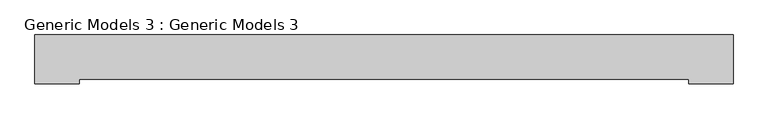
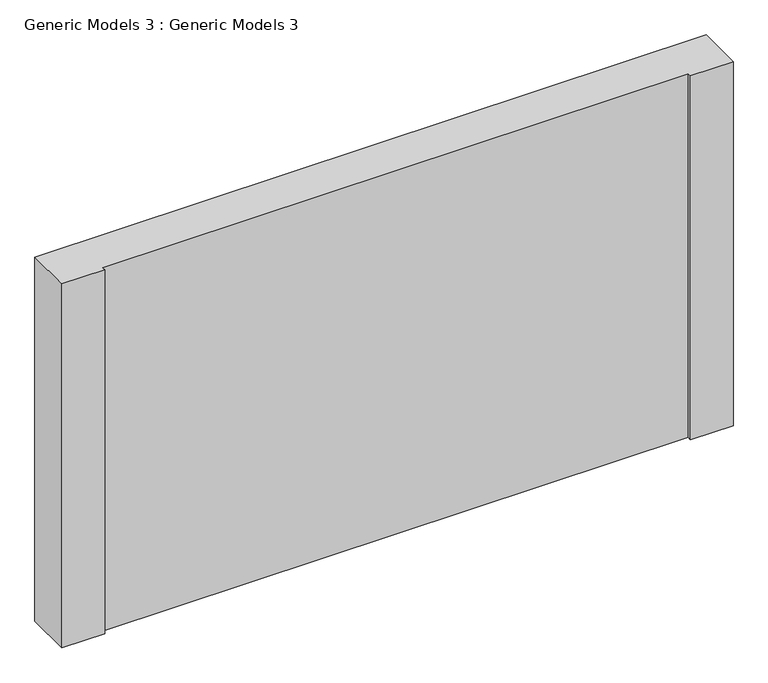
"""IFC4 building model written with IfcOpenShell, lengths in millimetres: proxy geometry, Generic Models 3 : Generic Models 3."""

from ifc_helpers import new_model, si_unit, frame, origin, place, context, project, spatial, polyline, outline, extrude, source, transform, mapped, element, save


def generic_models_3_generic_models_3_54da6a1e(model_context):
    return source(origin(), model_context, "Body", "SweptSolid", [
        extrude(outline(polyline([(-5134.8765445, 9626.6), (-5134.8765445, 9737.725), (-3539.2975402, 9737.725), (-3539.2975402, 9626.6), (-3640.8975402, 9626.6), (-3640.8975402, 9636.125), (-5033.2765445, 9636.125), (-5033.2765445, 9626.6), (-5134.8765445, 9626.6)])), frame((0.0, 0.0, 3348.0), z_axis=(0.0, 0.0, 1.0), x_axis=(1.0, 0.0, 0.0)), (0.0, 0.0, 1.0), 914.4),
    ])


if __name__ == "__main__":
    model = new_model("IFC4")
    model_context = context("Model", 3, world=origin())
    ifc_project = project(units=[si_unit("LENGTHUNIT", "METRE", prefix="MILLI")], contexts=[model_context])
    site = spatial("IfcSite", under=ifc_project)
    building = spatial("IfcBuilding", under=site)
    placement = place(None, origin())
    generic_models_3_generic_models_3_shape = generic_models_3_generic_models_3_54da6a1e(model_context)
    element("IfcBuildingElementProxy", 1, Name="Generic Models 3 : Generic Models 3", ObjectType="Generic Models 3 : Generic Models 3", at=placement, inside=building, context=model_context, shape_type="MappedRepresentation", body=[
        mapped(generic_models_3_generic_models_3_shape, transform((0.0, 0.0, 0.0), x_axis=(1.0, 0.0, 0.0), y_axis=(0.0, 1.0, 0.0), z_axis=(0.0, 0.0, 1.0))),
    ])
    save(model, "model.ifc")
